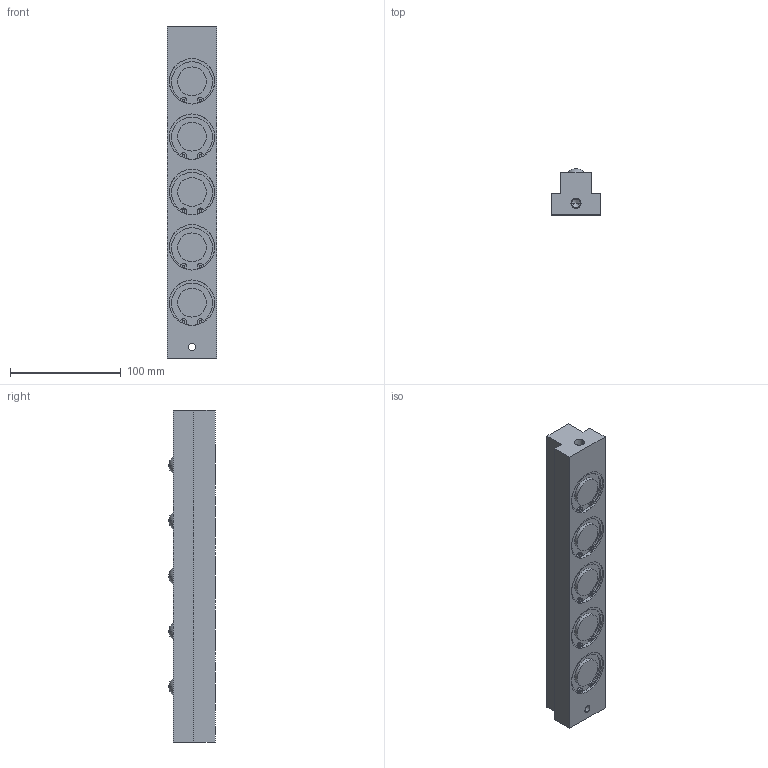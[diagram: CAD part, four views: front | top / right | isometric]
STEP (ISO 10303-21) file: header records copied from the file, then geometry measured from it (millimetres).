
FILE_DESCRIPTION (( 'STEP AP203' ), '1' );
FILE_NAME ('PVL50T-5.STEP', '2015-12-24T08:58:23', ( '' ), ( '' ), 'SwSTEP 2.0', 'SolidWorks 2013', '' );
FILE_SCHEMA (( 'CONFIG_CONTROL_DESIGN' ));
Length unit declared in the file: millimetre
Products named in the file (1): PVL50T-5
Bounding box: 45 x 42 x 300 mm (x, y, z)
Volume: 404766.6 mm3; surface area: 61400.5 mm2
Topology: 1 solids, 1 shells, 177 faces, 417 edges, 278 vertices
Faces by surface type: cylinder 106, plane 57, sphere 10, cone 4
Entity records: 5288 total; most frequent: DIRECTION 1017, CARTESIAN_POINT 871, ORIENTED_EDGE 830, AXIS2_PLACEMENT_3D 424, EDGE_CURVE 415, VERTEX_POINT 278, CIRCLE 246, EDGE_LOOP 217
